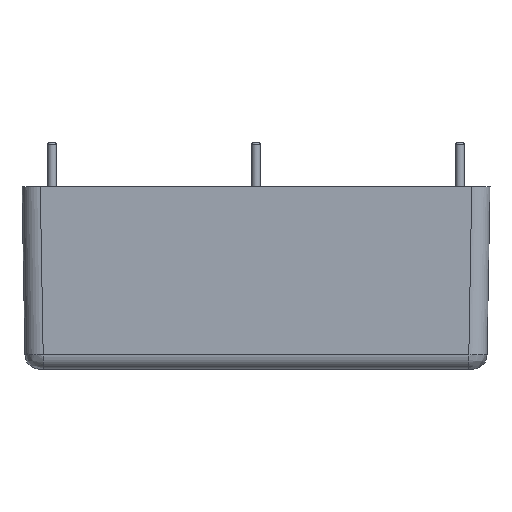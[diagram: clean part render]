
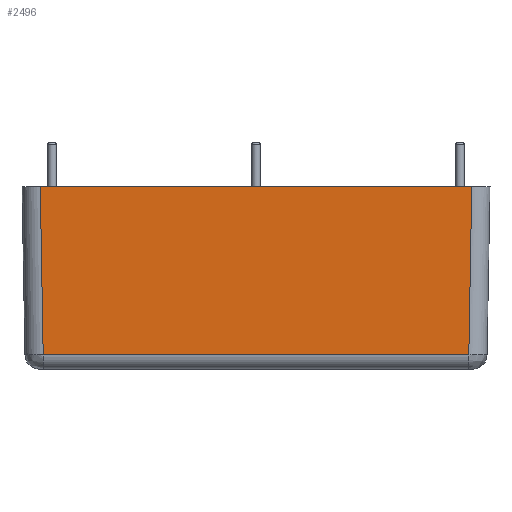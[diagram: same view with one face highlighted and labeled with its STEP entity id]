
A CAD part, left-side view. The second image highlights one B-rep face of the part: STEP entity #2496.
In plain terms, the highlighted planar face has unit normal (-1, 0, -0.018) as drawn and (1, 0, 0.017) by its records, which use the part's own axes.
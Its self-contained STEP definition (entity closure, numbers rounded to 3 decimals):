
#322=FACE_OUTER_BOUND($,#460,.T.);
#460=EDGE_LOOP($,(#2011,#2012,#2013,#2014));
#708=LINE($,#4069,#958);
#713=LINE($,#4149,#963);
#715=LINE($,#4152,#965);
#722=LINE($,#4163,#972);
#958=VECTOR($,#3171,23.042);
#963=VECTOR($,#3202,23.042);
#965=VECTOR($,#3206,58.297);
#972=VECTOR($,#3221,59.101);
#1185=VERTEX_POINT($,#4056);
#1189=VERTEX_POINT($,#4065);
#1199=VERTEX_POINT($,#4140);
#1202=VERTEX_POINT($,#4147);
#1489=EDGE_CURVE($,#1185,#1189,#708,.T.);
#1504=EDGE_CURVE($,#1202,#1199,#713,.T.);
#1506=EDGE_CURVE($,#1199,#1185,#715,.T.);
#1513=EDGE_CURVE($,#1202,#1189,#722,.T.);
#2011=ORIENTED_EDGE($,*,*,#1489,.F.);
#2012=ORIENTED_EDGE($,*,*,#1506,.F.);
#2013=ORIENTED_EDGE($,*,*,#1504,.F.);
#2014=ORIENTED_EDGE($,*,*,#1513,.T.);
#2379=PLANE($,#2693);
#2496=ADVANCED_FACE($,(#322),#2379,.T.);
#2693=AXIS2_PLACEMENT_3D($,#4162,#3219,#3220);
#3171=DIRECTION($,(0.017,0.017,-1.));
#3202=DIRECTION($,(-0.017,0.017,1.));
#3206=DIRECTION($,(0.,1.,0.));
#3219=DIRECTION('center_axis',(1.,0.,
0.017));
#3220=DIRECTION('ref_axis',(0.,1.,0.));
#3221=DIRECTION($,(0.,1.,0.));
#4056=CARTESIAN_POINT('',(89.098,61.198,23.035));
#4065=CARTESIAN_POINT('',(89.5,61.6,0.));
#4069=CARTESIAN_POINT($,(89.487,61.588,0.737));
#4140=CARTESIAN_POINT('',(89.098,2.902,23.035));
#4147=CARTESIAN_POINT('',(89.5,2.5,0.));
#4149=CARTESIAN_POINT($,(89.491,2.509,0.515));
#4152=CARTESIAN_POINT($,(89.098,48.075,23.035));
#4162=CARTESIAN_POINT('Origin',(89.5,64.1,0.));
#4163=CARTESIAN_POINT($,(89.5,0.,0.));
